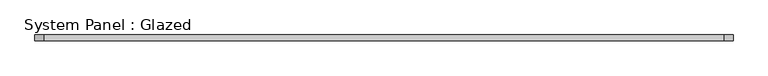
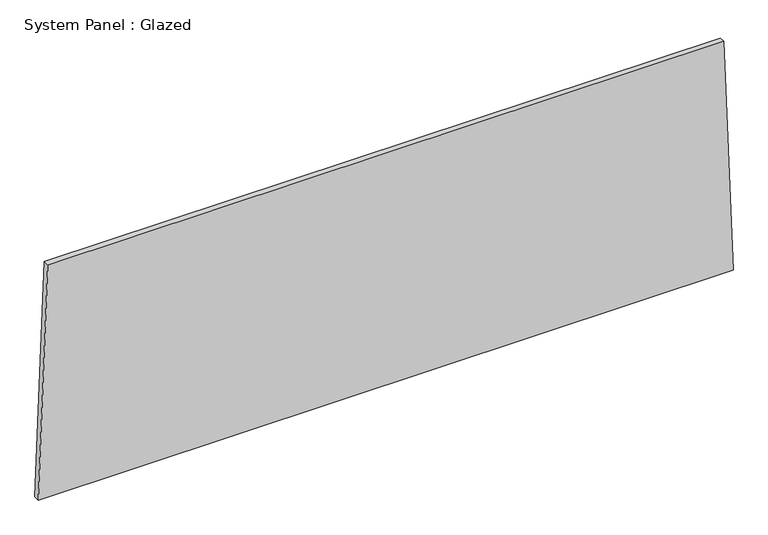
"""IFC4 building model written with IfcOpenShell, lengths in millimetres: plate geometry, System Panel : Glazed."""

from ifc_helpers import new_model, si_unit, frame, origin, place, context, project, spatial, polyline, outline, extrude, source, transform, mapped, element, save


def system_panel_glazed_518a6dcc(model_context):
    return source(origin(), model_context, "Body", "SweptSolid", [
        extrude(outline(polyline([(0.0, -1508.6830283), (0.0, 1508.6830283), (1066.0091554, 1467.6133237), (1066.0091554, -1467.6133237), (0.0, -1508.6830283)])), frame((0.0, -49.5, 0.0), z_axis=(0.0, 1.0, 0.0), x_axis=(0.0, 0.0, 1.0)), (0.0, 0.0, 1.0), 25.0),
    ])


if __name__ == "__main__":
    model = new_model("IFC4")
    model_context = context("Model", 3, world=origin())
    ifc_project = project(units=[si_unit("LENGTHUNIT", "METRE", prefix="MILLI")], contexts=[model_context])
    site = spatial("IfcSite", under=ifc_project)
    building = spatial("IfcBuilding", under=site)
    placement = place(None, origin())
    system_panel_glazed_shape = system_panel_glazed_518a6dcc(model_context)
    element("IfcPlate", 1, ObjectType="System Panel : Glazed", at=placement, inside=building, context=model_context, shape_type="MappedRepresentation", body=[
        mapped(system_panel_glazed_shape, transform((0.0, 0.0, 0.0), x_axis=(1.0, 0.0, 0.0), y_axis=(0.0, 1.0, 0.0), z_axis=(0.0, 0.0, 1.0))),
    ])
    save(model, "model.ifc")
